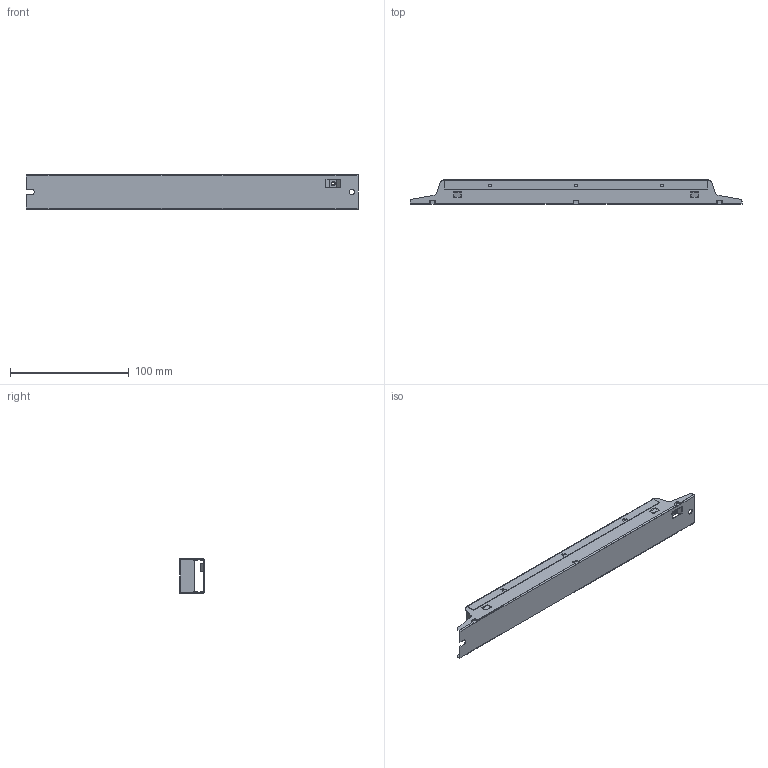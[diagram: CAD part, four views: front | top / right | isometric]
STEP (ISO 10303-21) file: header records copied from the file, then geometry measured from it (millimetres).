
FILE_DESCRIPTION((''),'2;1');
FILE_NAME('EBB-20_ASM','2016-10-31T',('017263'),(''),'CREO PARAMETRIC BY PTC INC, 2014440','CREO PARAMETRIC BY PTC INC, 2014440','');
FILE_SCHEMA(('CONFIG_CONTROL_DESIGN'));
Length unit declared in the file: millimetre
Products named in the file (3): EBB-20_XIAGAI; EBB-20_SHANGGAI; EBB-20_ASM
Assembly tree (2 placements, depth 2):
  EBB-20_ASM
    EBB-20_XIAGAI
    EBB-20_SHANGGAI
Bounding box: 280 x 21 x 30 mm (x, y, z)
Volume: 14128.3 mm3; surface area: 57181.4 mm2
Topology: 2 solids, 2 shells, 399 faces, 1026 edges, 650 vertices
Faces by surface type: plane 224, cylinder 125, torus 41, sphere 8, bspline 1
Entity records: 12316 total; most frequent: CARTESIAN_POINT 2239, DIRECTION 2066, ORIENTED_EDGE 2052, EDGE_CURVE 1026, VECTOR 712, LINE 712, AXIS2_PLACEMENT_3D 677, VERTEX_POINT 650
